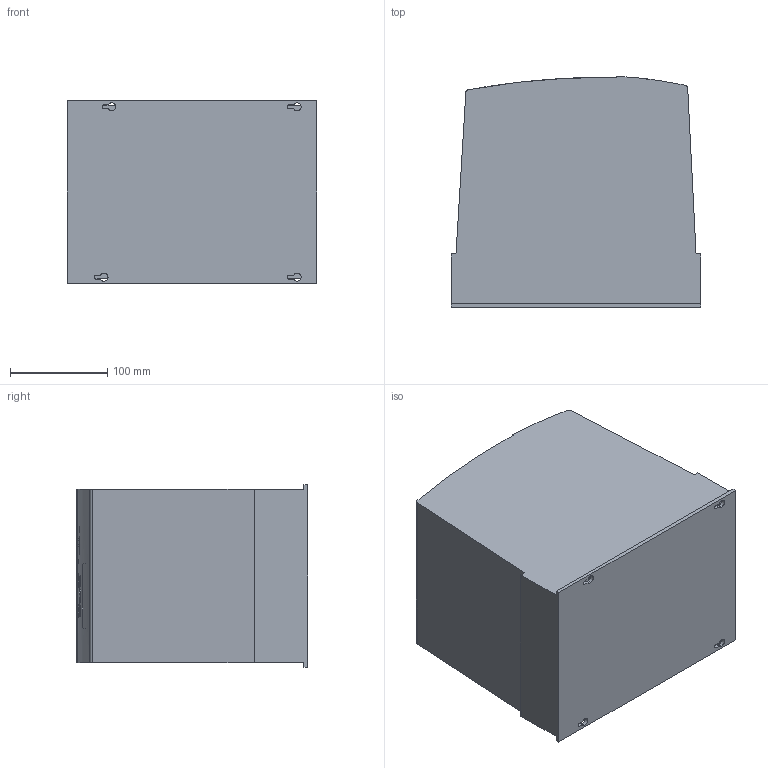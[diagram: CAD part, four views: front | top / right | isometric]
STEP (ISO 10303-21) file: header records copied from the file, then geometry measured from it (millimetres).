
FILE_DESCRIPTION (( 'STEP AP214' ), '1' );
FILE_NAME ('ECO S2 IP66 SW1.STEP', '2017-08-15T11:20:42', ( '' ), ( '' ), 'SwSTEP 2.0', 'SolidWorks 2017', '' );
FILE_SCHEMA (( 'AUTOMOTIVE_DESIGN' ));
Length unit declared in the file: millimetre
Products named in the file (1): ECO S2 IP66 SW1
Bounding box: 257 x 237.74 x 188 mm (x, y, z)
Volume: 10028306 mm3; surface area: 287775.3 mm2
Topology: 1 solids, 1 shells, 347 faces, 901 edges, 598 vertices
Faces by surface type: plane 176, cylinder 115, bspline 56
Entity records: 12540 total; most frequent: CARTESIAN_POINT 4626, ORIENTED_EDGE 1802, DIRECTION 1367, EDGE_CURVE 901, VERTEX_POINT 598, AXIS2_PLACEMENT_3D 456, LINE 455, VECTOR 455
